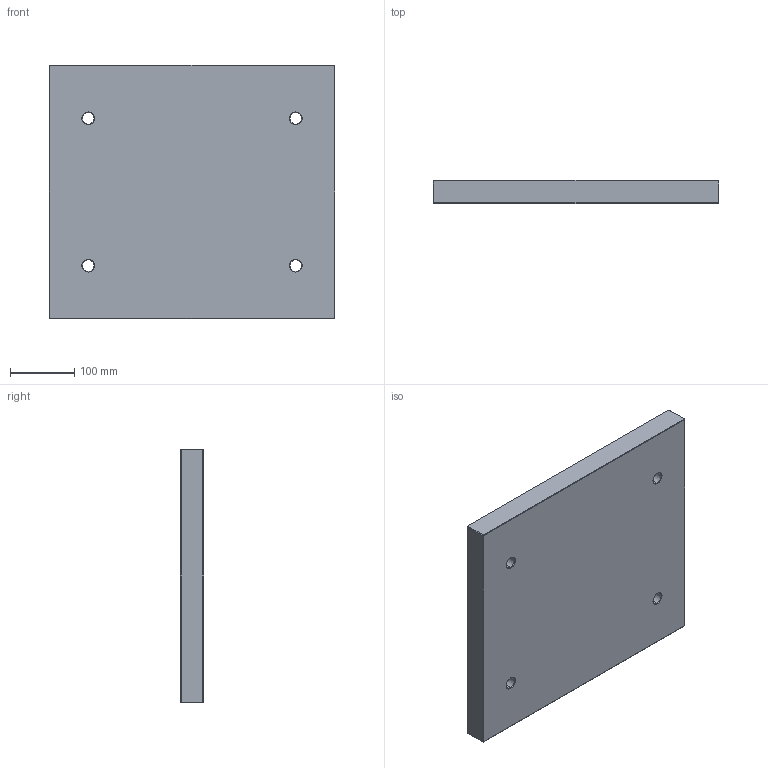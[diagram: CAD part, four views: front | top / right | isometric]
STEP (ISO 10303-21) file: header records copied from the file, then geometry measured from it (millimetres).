
FILE_DESCRIPTION (( 'STEP AP214' ), '1' );
FILE_NAME ('396x396x36.STEP', '2020-03-09T17:56:41', ( 'August' ), ( '' ), 'SwSTEP 2.0', 'SolidWorks 2018', '' );
FILE_SCHEMA (( 'AUTOMOTIVE_DESIGN' ));
Length unit declared in the file: millimetre
Products named in the file (1): 396x396x36
Bounding box: 446 x 36 x 396 mm (x, y, z)
Volume: 6299591.8 mm3; surface area: 419399 mm2
Topology: 1 solids, 1 shells, 62 faces, 128 edges, 72 vertices
Faces by surface type: plane 30, cone 16, cylinder 16
Entity records: 1650 total; most frequent: DIRECTION 302, CARTESIAN_POINT 263, ORIENTED_EDGE 256, EDGE_CURVE 128, AXIS2_PLACEMENT_3D 111, VECTOR 80, LINE 80, EDGE_LOOP 74
